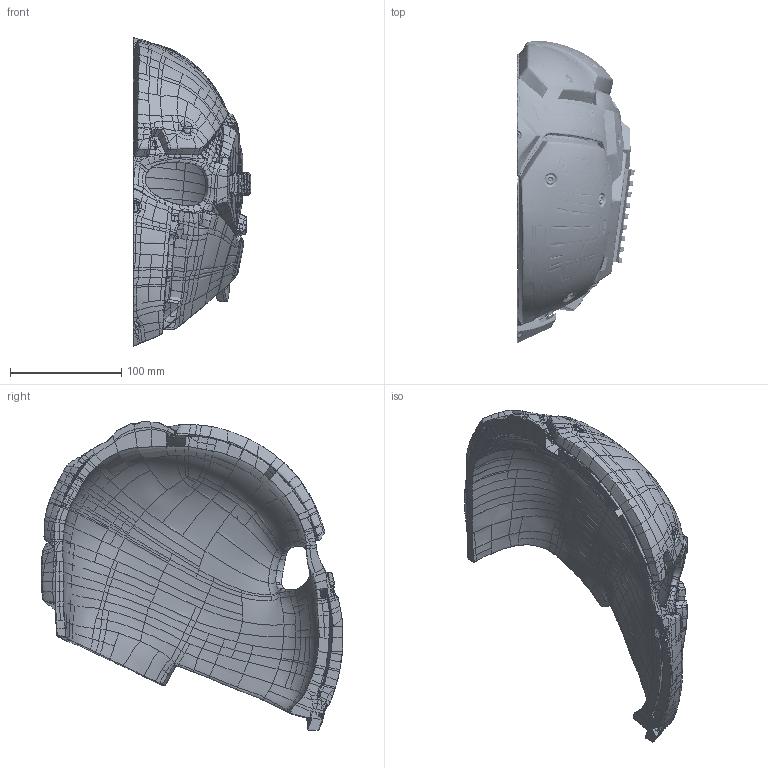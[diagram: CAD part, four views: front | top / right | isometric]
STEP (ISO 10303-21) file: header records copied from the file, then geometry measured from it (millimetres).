
FILE_DESCRIPTION(('STEP AP214'),'1');
FILE_NAME('C:/Users/default.default-PC/Desktop/Default.stp','2018-03-15T02:04:00',(' '),(' '),'Spatial InterOp 3D',' ',' ');
FILE_SCHEMA(('automotive_design'));
Length unit declared in the file: inch
Products named in the file (1): 1
Bounding box: 105.86 x 272.02 x 277.69 mm (x, y, z)
Surface area: 191668.9 mm2 (no closed solid volume)
Topology: 0 solids, 3125 shells, 3125 faces, 13411 edges, 13390 vertices
Faces by surface type: bspline 3125
Entity records: 1290307 total; most frequent: CARTESIAN_POINT 1224225, ORIENTED_EDGE 13390, EDGE_CURVE 13390, VERTEX_POINT 13390, B_SPLINE_CURVE_WITH_KNOTS 13390, FACE_SURFACE 3125, FACE_BOUND 3125, B_SPLINE_SURFACE_WITH_KNOTS 3125
